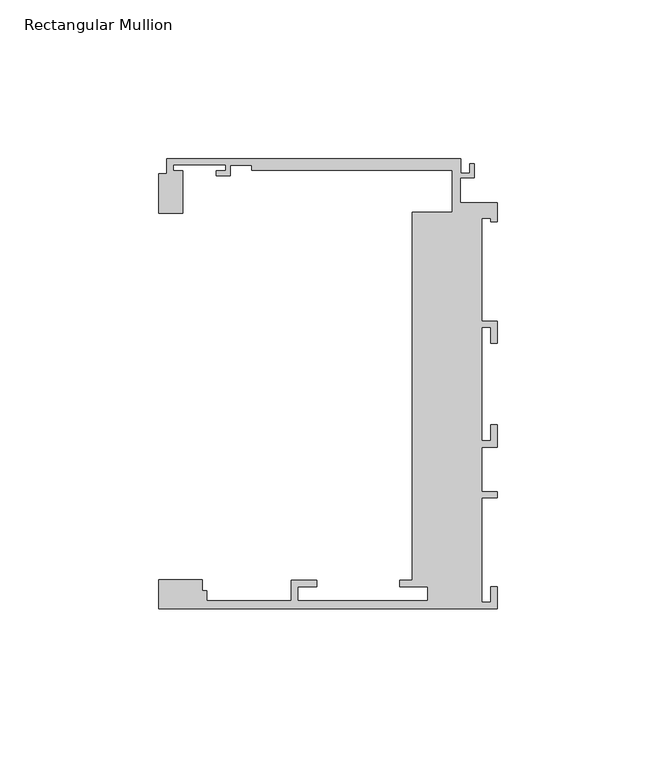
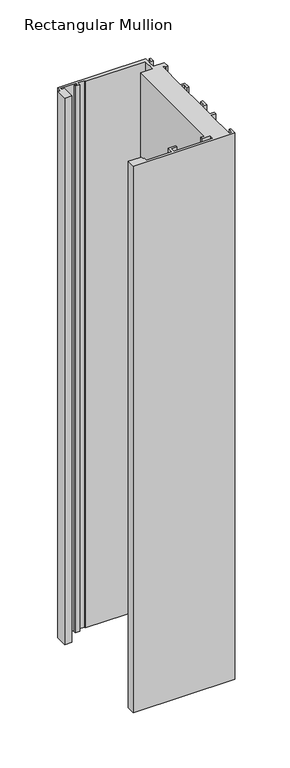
"""IFC4 building model written with IfcOpenShell, lengths in millimetres: member geometry, Rectangular Mullion : Danpal_K12_End-Mullion_B2."""

from ifc_helpers import new_model, si_unit, frame, origin, place, context, project, spatial, polyline, outline, extrude, source, transform, mapped, element, save


def rectangular_mullion_1fbdb84d(model_context):
    return source(origin(), model_context, "Body", "SweptSolid", [
        extrude(outline(polyline([(-26.6209612, -1.9446289), (-14.1055875, -1.9446289), (-14.1055875, 11.3051512), (-77.1531178, 11.3051512), (-77.1531178, 12.8051513), (-83.8999976, 12.8051513), (-83.8999976, 9.5051512), (-88.3999976, 9.5051512), (-88.3999976, 11.0051513), (-85.3999976, 11.0051513), (-85.3999976, 13.0051512), (-101.8999976, 13.0051512), (-101.8999976, 11.0051513), (-98.8999976, 11.0051513), (-98.8999976, -2.316674), (-106.4117426, -2.316674), (-106.4117426, 10.065304), (-103.8999976, 10.065304), (-103.8999976, 14.8051514), (-11.4019537, 14.8051514), (-11.4019537, 10.3006425), (-8.6518595, 10.3006425), (-8.6518595, 13.3051514), (-7.1518595, 13.3051514), (-7.1518595, 8.8006425), (-11.6055875, 8.8006425), (-11.6055875, 1.0551514), (0.0, 1.0551514), (0.0, -4.9448486), (-2.0, -4.9448486), (-2.0, -3.9448486), (-4.8, -3.9448486), (-4.8, -36.2443486), (0.0, -36.2443486), (0.0, -43.2443486), (-2.0, -43.2443486), (-2.0, -38.2443486), (-4.8, -38.2443486), (-4.8, -73.8676657), (-2.0, -73.8676657), (-2.0, -68.8676657), (0.0, -68.8676657), (0.0, -75.867683), (-4.8, -75.867683), (-4.8, -89.8676485), (0.0, -89.8676485), (0.0, -91.8676485), (-4.8, -91.8676485), (-4.8, -124.7676657), (-2.0, -124.7676657), (-2.0, -119.7676657), (0.0, -119.7676657), (0.0, -126.7676657), (-106.4117426, -126.7676657), (-106.4117426, -117.6986749), (-92.8228167, -117.6986749), (-92.8228167, -121.0676175), (-91.2900275, -121.0676175), (-91.2900275, -124.2676658), (-64.7350275, -124.2676658), (-64.7350275, -117.8676658), (-56.7350275, -117.8676658), (-56.7350275, -119.8676658), (-62.7350275, -119.8676658), (-62.7350275, -124.2676658), (-21.835, -124.2676658), (-21.835, -119.8676658), (-30.6, -119.8676658), (-30.6, -117.8676658), (-26.6209612, -117.8676658), (-26.6209612, -1.9446289)])), frame((0.0, 0.0, -605.0), z_axis=(0.0, 0.0, 1.0), x_axis=(1.0, 0.0, 0.0)), (0.0, 0.0, 1.0), 605.0),
    ])


if __name__ == "__main__":
    model = new_model("IFC4")
    model_context = context("Model", 3, world=origin())
    ifc_project = project(units=[si_unit("LENGTHUNIT", "METRE", prefix="MILLI")], contexts=[model_context])
    site = spatial("IfcSite", under=ifc_project)
    building = spatial("IfcBuilding", under=site)
    placement = place(None, origin())
    rectangular_mullion_shape = rectangular_mullion_1fbdb84d(model_context)
    element("IfcMember", 1, ObjectType="Rectangular Mullion : Danpal_K12_End-Mullion_B2", at=placement, inside=building, context=model_context, shape_type="MappedRepresentation", body=[
        mapped(rectangular_mullion_shape, transform((0.0, 0.0, 0.0), x_axis=(1.0, 0.0, 0.0), y_axis=(0.0, 1.0, 0.0), z_axis=(0.0, 0.0, 1.0))),
    ])
    save(model, "model.ifc")
